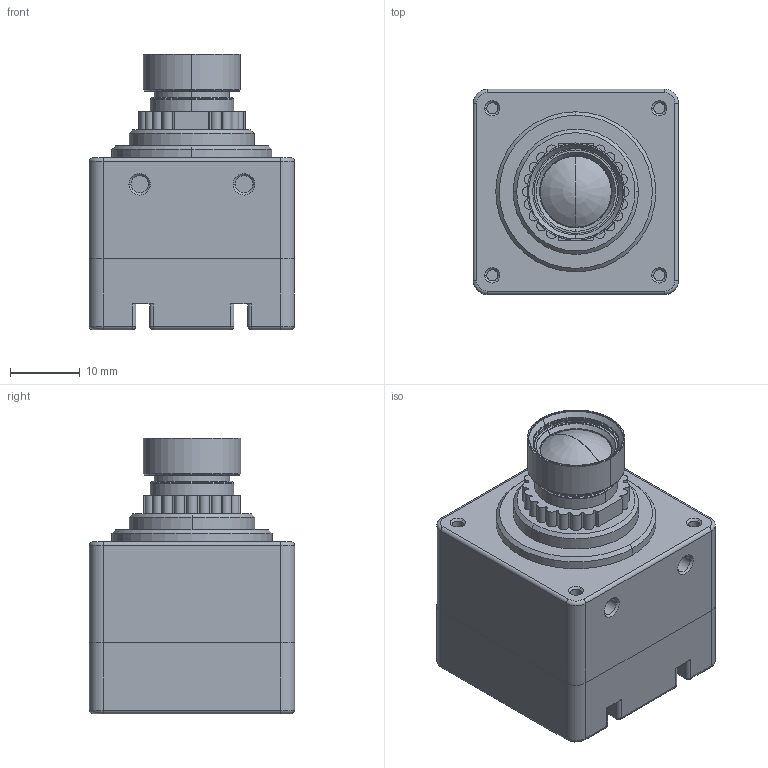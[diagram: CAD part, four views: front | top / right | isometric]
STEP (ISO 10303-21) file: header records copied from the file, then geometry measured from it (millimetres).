
FILE_DESCRIPTION((''),'2;1');
FILE_NAME('VIZIONCAM-S-MOUNT-3D-A1_230329_ASM','2023-03-30T09:38:58',('turay'),(''),'CREO PARAMETRIC BY PTC INC, 2021063','CREO PARAMETRIC BY PTC INC, 2021063','');
FILE_SCHEMA(('AUTOMOTIVE_DESIGN { 1 0 10303 214 1 1 1 1 }'));
Products named in the file (69): TN270_7; AR0521-D_3; CONN_DF40C-70DP-04V_5; L_HMLQ25201B_270-_2; SC70_6_270-_2; SOT563_6_270-_2; DFN8_D5_3X3XD8_270-_2; BGA120_AP1302_270-_2; SOP8_D65X6D4X1D2_270-_2; 0201_RR_012SM_270-_2; SOSC4_CX2016DB_270-_2; 0201_CC_012SM_270-_2; 0201_3P_270-_2; DF40C-70DP-0D4V_270-_1; SM0402C_270-_2; SM0402L_270-_2; TEVI-AR0521_REVB2_0530B_ASM_1_ASM; MTV-039B125_5MP__3; TN270-ASM_ASM_63_ASM; M1_6X3_NUT_SCREW_6; TN255-PCB_3; CONN_DF40C-60DP-04V_4; CONN_DF40HC-70DS-04V_5; MSBR-4_4; MSBR-3_4; MSBR-2_4; MSBR-1_4; UT1411C-1940F-7H_ASM_4_ASM; L_HMLQ25201B_255_1; SOT563_6_255_1; SSW_RENE_JM2002-02FQR_D7_255_1; DQA_R-PUSON-N10_255_1; STP24X50_255_1; QFN30_D4_2D5X4D5XD8_255_1; DFN6_D4X1D4X1D35XD5_1_255_1; SOSC4_CX2016DB_255_1; SM1206C_255_1; SM0402C_255_1; 0201_RR_012SM_255_1; SM0402L_255_1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
Assembly tree (288 placements, depth 6):
  VIZIONCAM-S-MOUNT-3D-A1_230329_ASM
    S-MOUNT-CAMERA-MODULE-CASE_ASM__ASM
      IISP-PCBA-TYPEC-ASM_ASM_6_ASM
        TN270-ASM_ASM_63_ASM
          TN270_7
          AR0521-D_3
          CONN_DF40C-70DP-04V_5
          TEVI-AR0521_REVB2_0530B_ASM_1_ASM
            L_HMLQ25201B_270-_2
            SC70_6_270-_2
            SOT563_6_270-_2
            DFN8_D5_3X3XD8_270-_2
            BGA120_AP1302_270-_2
            SOP8_D65X6D4X1D2_270-_2
            0201_RR_012SM_270-_2  x29
            SOSC4_CX2016DB_270-_2  x2
            0201_CC_012SM_270-_2  x48
            0201_3P_270-_2  x3
            DF40C-70DP-0D4V_270-_1
            SM0402C_270-_2  x12
            SM0402L_270-_2  x11
          MTV-039B125_5MP__3
        M1_6X3_NUT_SCREW_6  x4
        TN255-ASM_ASM_61_ASM
          TN255-PCB_3
          CONN_DF40C-60DP-04V_4
          CONN_DF40HC-70DS-04V_5
          UT1411C-1940F-7H_ASM_4_ASM
            MSBR-4_4
            MSBR-3_4
            MSBR-2_4
            MSBR-1_4
          VIZIONCAM-USB3C-UVC_REVA2_ASM_3_ASM
            L_HMLQ25201B_255_1  x2
            SOT563_6_255_1  x2
            SSW_RENE_JM2002-02FQR_D7_255_1
            DQA_R-PUSON-N10_255_1  x2
            STP24X50_255_1  x3
            QFN30_D4_2D5X4D5XD8_255_1
            DFN6_D4X1D4X1D35XD5_1_255_1
            SOSC4_CX2016DB_255_1  x3
            SM1206C_255_1
            SM0402C_255_1  x13
            0201_RR_012SM_255_1  x39
            SM0402L_255_1  x6
            0201_CC_012SM_255_1  x50
            0201_3P_255_1  x3
            DFN8_1D27_6X5X1_255_1
            SON8_D65X3X3X1_255_1  x2
            BGA121_D8_10X10X1D7_255_1
      REAR-COVER-TYPEC-ASM_ASM_7_ASM
        REAR-COVER-TYPEC_13
        SCREW_M1_6X9_4  x4
        S-MOUNT-SEALING-SHEET_4
        THERMAL-PAD-7X16_3
      FRONT-COVER-S-MOUNT_47
      LENS-LOCK-RING_3
      MTV-039B125_5MP__3
      ICON_2_ASM
        ICON_2_1
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Bounding box: 29.55 x 29.5 x 39.58 mm (x, y, z)
Volume: 18514.3 mm3; surface area: 21586.3 mm2
Topology: 279 solids, 291 shells, 4375 faces, 15175 edges, 12225 vertices
Faces by surface type: plane 3567, cylinder 570, extrusion 84, cone 78, torus 42, sphere 30, revolution 4
Entity records: 120381 total; most frequent: CARTESIAN_POINT 17139, DIRECTION 15771, ORIENTED_EDGE 8426, PRESENTATION_STYLE_ASSIGNMENT 6773, STYLED_ITEM 6773, CURVE_STYLE 6692, VECTOR 6545, LINE 6461
